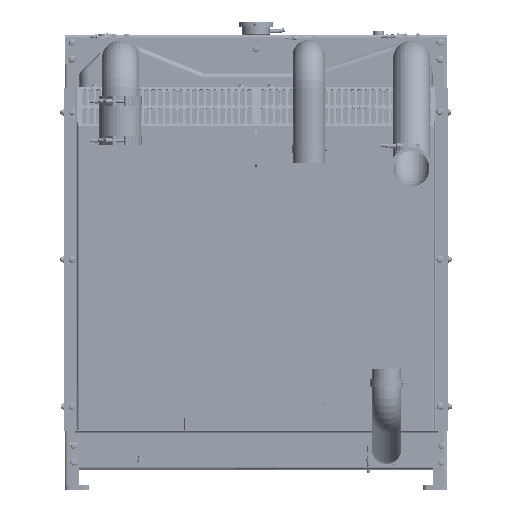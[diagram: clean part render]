
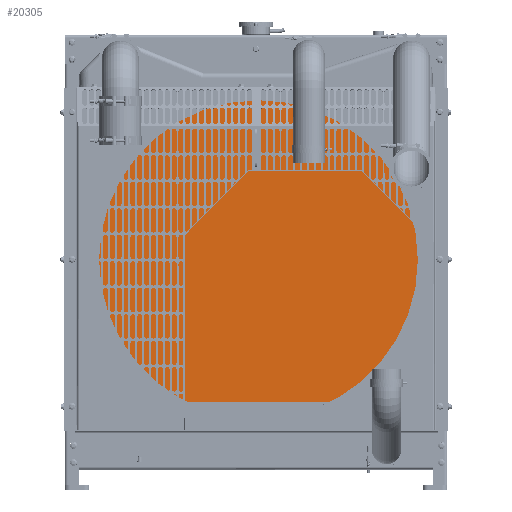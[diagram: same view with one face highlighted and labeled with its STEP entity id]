
A CAD part, left-side view. The second image highlights one B-rep face of the part: STEP entity #20305.
In plain terms, the highlighted planar face has unit normal (-1, 0, 0) as drawn and (0, 0, 1) by its records, which use the part's own axes.
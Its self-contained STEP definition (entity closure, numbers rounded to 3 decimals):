
#18255=DIRECTION('',(-1.,0.,0.));
#18256=VECTOR('',#18255,697.);
#18257=CARTESIAN_POINT('',(348.5,40.192,-5.5));
#18258=LINE('',#18257,#18256);
#18295=DIRECTION('',(0.,-1.,0.));
#18296=VECTOR('',#18295,635.);
#18297=CARTESIAN_POINT('',(348.5,40.192,-5.5));
#18298=LINE('',#18297,#18296);
#18299=DIRECTION('',(1.,0.,0.));
#18300=VECTOR('',#18299,697.001);
#18301=CARTESIAN_POINT('',(-348.501,-594.808,-5.5));
#18302=LINE('',#18301,#18300);
#19014=DIRECTION('',(0.,-1.,0.));
#19015=VECTOR('',#19014,635.);
#19016=CARTESIAN_POINT('',(-348.5,40.192,-5.5));
#19017=LINE('',#19016,#19015);
#19470=CARTESIAN_POINT('',(348.5,40.192,-5.5));
#19471=CARTESIAN_POINT('',(-348.5,40.192,-5.5));
#19472=VERTEX_POINT('',#19470);
#19473=VERTEX_POINT('',#19471);
#19486=CARTESIAN_POINT('',(-348.501,-594.808,-5.5));
#19487=CARTESIAN_POINT('',(348.5,-594.808,-5.5));
#19488=VERTEX_POINT('',#19486);
#19489=VERTEX_POINT('',#19487);
#20291=CARTESIAN_POINT('',(345.5,40.192,-5.5));
#20292=DIRECTION('',(0.,0.,1.));
#20293=DIRECTION('',(-1.,0.,0.));
#20294=AXIS2_PLACEMENT_3D('',#20291,#20292,#20293);
#20295=PLANE('',#20294);
#20297=ORIENTED_EDGE('',*,*,#20296,.F.);
#20299=ORIENTED_EDGE('',*,*,#20298,.F.);
#20300=ORIENTED_EDGE('',*,*,#20269,.F.);
#20302=ORIENTED_EDGE('',*,*,#20301,.T.);
#20303=EDGE_LOOP('',(#20297,#20299,#20300,#20302));
#20304=FACE_OUTER_BOUND('',#20303,.F.);
#20305=ADVANCED_FACE('',(#20304),#20295,.T.);
#20269=EDGE_CURVE('',#19472,#19473,#18258,.T.);
#20296=EDGE_CURVE('',#19488,#19489,#18302,.T.);
#20298=EDGE_CURVE('',#19473,#19488,#19017,.T.);
#20301=EDGE_CURVE('',#19472,#19489,#18298,.T.);
